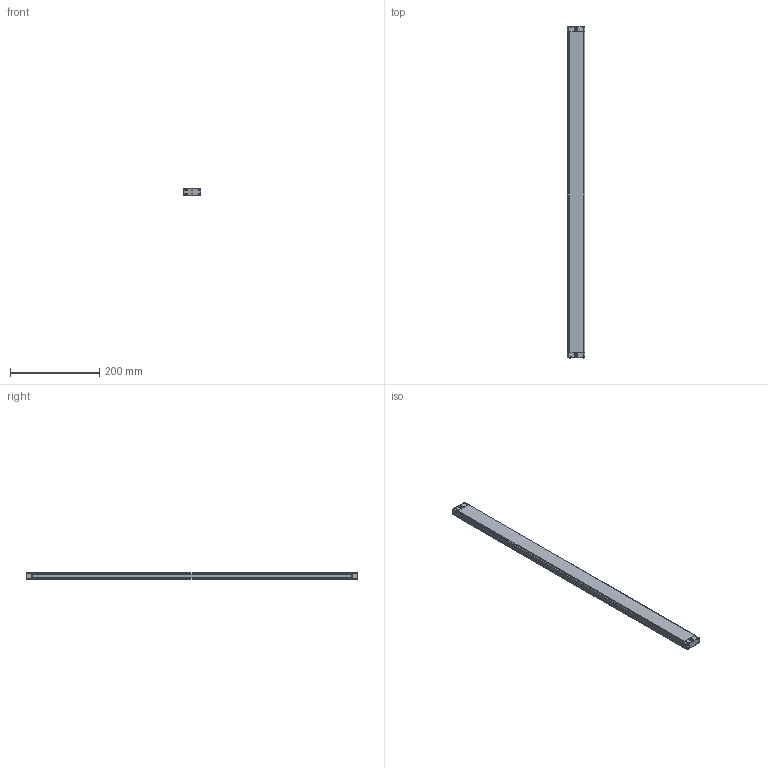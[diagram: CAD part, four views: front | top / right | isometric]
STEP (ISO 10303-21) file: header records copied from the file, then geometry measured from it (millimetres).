
FILE_DESCRIPTION((''),'2;1');
FILE_NAME('EB15--3610_ASM','2021-07-22T10:14:16',('18720616900'),(''),'CREO PARAMETRIC BY PTC INC, 2019010','CREO PARAMETRIC BY PTC INC, 2019010','');
FILE_SCHEMA(('CONFIG_CONTROL_DESIGN'));
Length unit declared in the file: millimetre
Products named in the file (6): EB15-00; EB15-000; EB15-0003; EB15-0004; ST-3-12; EB15--3610_ASM
Assembly tree (12 placements, depth 2):
  EB15--3610_ASM
    EB15-00
    EB15-000
    EB15-0003
    EB15-0004
    ST-3-12  x8
Bounding box: 39.15 x 745 x 15.8 mm (x, y, z)
Volume: 447560.6 mm3; surface area: 110081.1 mm2
Topology: 12 solids, 12 shells, 827 faces, 2188 edges, 1368 vertices
Faces by surface type: plane 242, bspline 188, cone 176, cylinder 165, torus 40, sphere 16
Entity records: 16044 total; most frequent: CARTESIAN_POINT 7660, ORIENTED_EDGE 1804, DIRECTION 1603, EDGE_CURVE 902, AXIS2_PLACEMENT_3D 577, VERTEX_POINT 563, VECTOR 449, LINE 449
